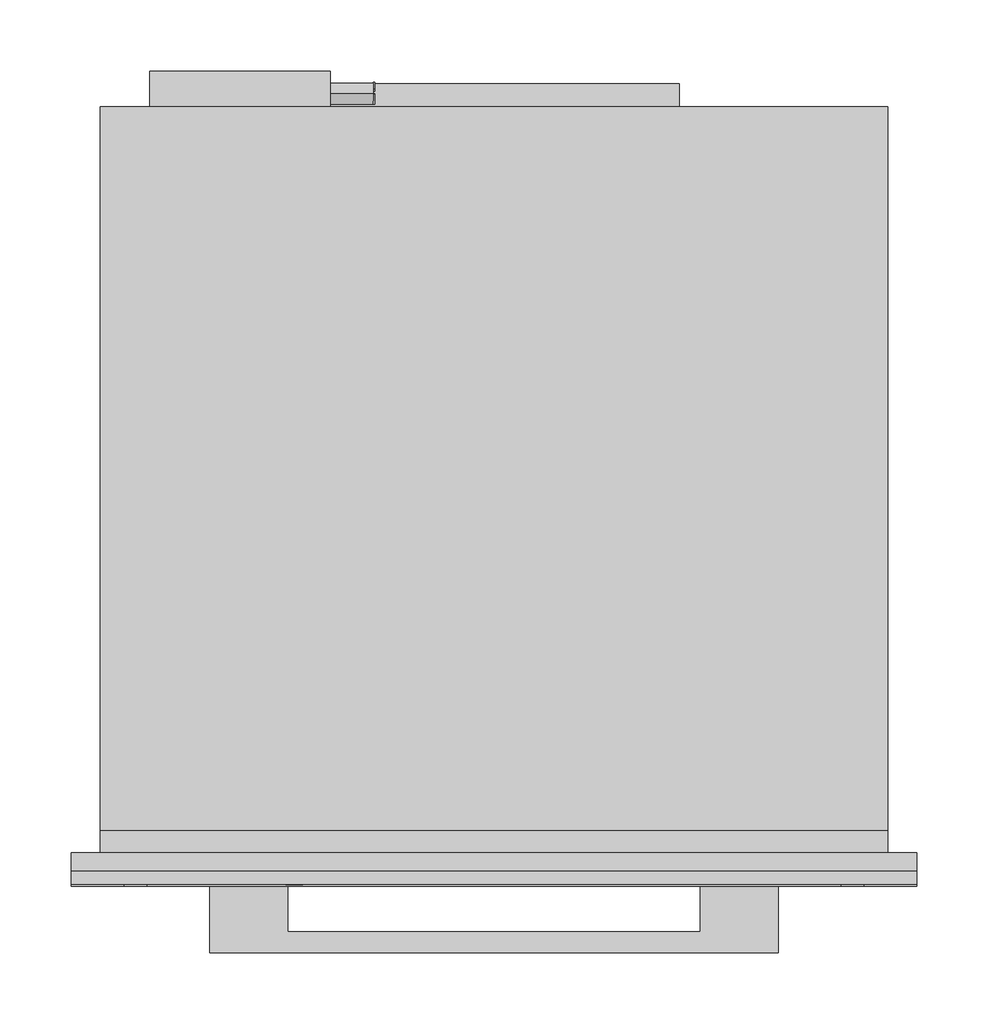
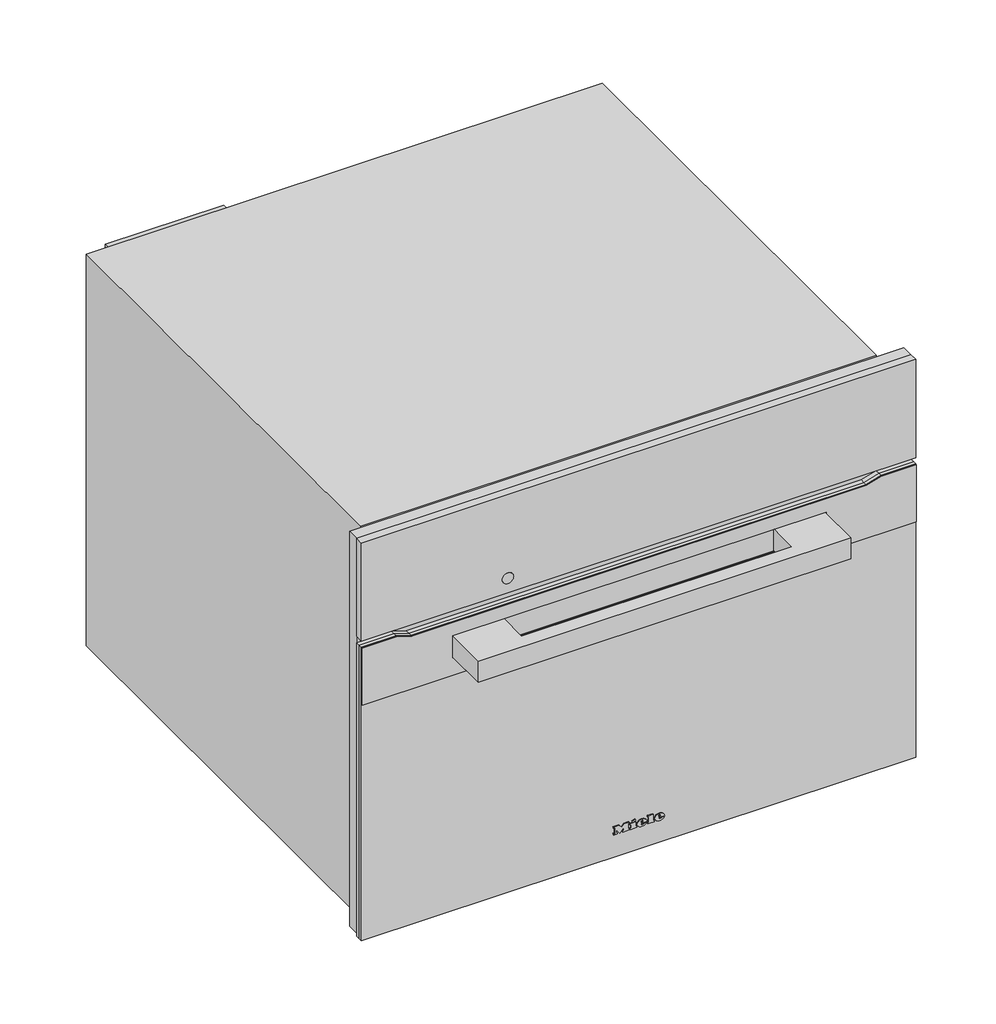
# Not in any storey: 1 proxy.
"""IFC4 building model written with IfcOpenShell, lengths in millimetres."""

import ifcopenshell
import ifcopenshell.guid

model = None  # the IFC model being written
_history = None  # IfcOwnerHistory: only IFC2X3 demands one
_inside = {}  # id of a spatial element -> (the spatial element, [elements in it])
_under = {}  # id of a project, library or spatial element -> (it, [spatial elements below it])
_declared = {}  # id of a project -> (the project, [libraries it declares])
_typed = {}  # id of a type object -> (the type object, [elements of that type])
_made_of = {}  # id of a material, layer set ... -> (it, [elements and type objects made of it])


def new_model(schema):
    """Start an empty IFC model of exactly this schema.

    Asked for "IFC4X3", IfcOpenShell would pick the latest addendum, in which some entities
    have other attributes; the version numbers below select the first issue.
    IFC2X3 requires an IfcOwnerHistory on every rooted entity: one is made here for all.
    """
    global model, _history
    if schema == "IFC4X3":
        model = ifcopenshell.file(schema_version=(4, 3, 0, 0))
    else:
        model = ifcopenshell.file(schema=schema)
    _inside.clear()
    _under.clear()
    _declared.clear()
    _typed.clear()
    _made_of.clear()
    _history = None
    if model.schema == "IFC2X3":
        org = make("IfcOrganization", Name="unknown")
        user = make(
            "IfcPersonAndOrganization",
            ThePerson=make("IfcPerson", FamilyName="unknown"),
            TheOrganization=org,
        )
        app = make(
            "IfcApplication",
            ApplicationDeveloper=org,
            Version="unknown",
            ApplicationFullName="unknown",
            ApplicationIdentifier="unknown",
        )
        _history = make(
            "IfcOwnerHistory",
            OwningUser=user,
            OwningApplication=app,
            ChangeAction="ADDED",
            CreationDate=0,
        )
    return model


def make(cls, **values):
    """One entity of the class cls with the attributes given. An attribute that is None is left unset."""
    return model.create_entity(
        cls, **{name: value for name, value in values.items() if value is not None}
    )


def rooted(cls, **values):
    """An entity with a GlobalId (a new one), such as an element, a storey or a relation."""
    return make(cls, GlobalId=ifcopenshell.guid.new(), OwnerHistory=_history, **values)


def si_unit(unit_type, name, prefix=None):
    """IfcSIUnit, for example si_unit("LENGTHUNIT", "METRE", prefix="MILLI")."""
    return make("IfcSIUnit", UnitType=unit_type, Prefix=prefix, Name=name)


def assignment(units):
    """IfcUnitAssignment: the units of a project."""
    return None if units is None else make("IfcUnitAssignment", Units=units)


def point(xyz):
    """IfcCartesianPoint."""
    return None if xyz is None else make("IfcCartesianPoint", Coordinates=xyz)


def direction(xyz):
    """IfcDirection."""
    return None if xyz is None else make("IfcDirection", DirectionRatios=xyz)


def frame(location, z_axis=None, x_axis=None):
    """IfcAxis2Placement3D, a coordinate frame: its origin and axes. An axis left out is left unset."""
    return make(
        "IfcAxis2Placement3D",
        Location=point(location),
        Axis=direction(z_axis),
        RefDirection=direction(x_axis),
    )


def frame_2d(location, x_axis=None):
    """IfcAxis2Placement2D, a coordinate frame in the plane: its origin and x axis."""
    return make(
        "IfcAxis2Placement2D", Location=point(location), RefDirection=direction(x_axis)
    )


def origin():
    """The frame at (0, 0, 0) with its axes left unset."""
    return frame((0.0, 0.0, 0.0))


def place(relative_to, where):
    """IfcLocalPlacement: puts the frame where relative to a parent placement (None: the world)."""
    return make(
        "IfcLocalPlacement", PlacementRelTo=relative_to, RelativePlacement=where
    )


def context(
    kind, dimensions, precision=None, world=None, true_north=None, identifier=None
):
    """IfcGeometricRepresentationContext, for example the 3D "Model" context."""
    return make(
        "IfcGeometricRepresentationContext",
        ContextIdentifier=identifier,
        ContextType=kind,
        CoordinateSpaceDimension=dimensions,
        Precision=precision,
        WorldCoordinateSystem=world,
        TrueNorth=true_north,
    )


def project(units=None, contexts=None):
    """IfcProject with its units and contexts."""
    return rooted(
        "IfcProject",
        Name="project",
        RepresentationContexts=contexts,
        UnitsInContext=assignment(units),
    )


def spatial(cls, under=None, at=None, **own):
    """A site, building, storey or space (cls), placed at a placement, below another one or the project."""
    s = rooted(cls, ObjectPlacement=at, **own)
    if under is not None:
        _under.setdefault(under.id(), (under, []))[1].append(s)
    return s


def polyline(points):
    """IfcPolyline through the points."""
    return make("IfcPolyline", Points=[point(p) for p in points])


def circle_curve(where, radius):
    """IfcCircle in the frame where."""
    return make("IfcCircle", Position=where, Radius=radius)


def ellipse_curve(where, semi_axis1, semi_axis2):
    """IfcEllipse in the frame where."""
    return make(
        "IfcEllipse", Position=where, SemiAxis1=semi_axis1, SemiAxis2=semi_axis2
    )


def trimmed(basis, trim1, trim2, sense, master):
    """IfcTrimmedCurve: the piece of a basis curve between two trims."""
    return make(
        "IfcTrimmedCurve",
        BasisCurve=basis,
        Trim1=trim1,
        Trim2=trim2,
        SenseAgreement=sense,
        MasterRepresentation=master,
    )


def segment(curve, same_sense, transition):
    """IfcCompositeCurveSegment."""
    return make(
        "IfcCompositeCurveSegment",
        Transition=transition,
        SameSense=same_sense,
        ParentCurve=curve,
    )


def composite_curve(segments, self_intersect=None):
    """IfcCompositeCurve: segments joined end to end."""
    return make("IfcCompositeCurve", Segments=segments, SelfIntersect=self_intersect)


def outline(outer, holes=None, kind="AREA"):
    """IfcArbitraryClosedProfileDef: a profile drawn as a closed curve; with holes, ...WithVoids."""
    if holes is None:
        return make("IfcArbitraryClosedProfileDef", ProfileType=kind, OuterCurve=outer)
    return make(
        "IfcArbitraryProfileDefWithVoids",
        ProfileType=kind,
        OuterCurve=outer,
        InnerCurves=holes,
    )


def extrude(swept, where, along, depth):
    """IfcExtrudedAreaSolid: the profile swept, set in the frame where, extruded along a direction by depth."""
    return make(
        "IfcExtrudedAreaSolid",
        SweptArea=swept,
        Position=where,
        ExtrudedDirection=direction(along),
        Depth=depth,
    )


def faces_of(points, faces, orient=None, outer=None):
    """IfcFace entities. A face is a list of loops; a loop is a list of indices into points, from 0.

    orient and outer hold one flag for each loop. By default every Orientation is true, the
    first loop of a face is its IfcFaceOuterBound and the others are IfcFaceBound.
    """
    made = []
    for i, loops in enumerate(faces):
        bounds = []
        for j, loop in enumerate(loops):
            is_outer = j == 0 if outer is None else outer[i][j]
            bounds.append(
                make(
                    "IfcFaceOuterBound" if is_outer else "IfcFaceBound",
                    Bound=make("IfcPolyLoop", Polygon=[points[k] for k in loop]),
                    Orientation=True if orient is None else orient[i][j],
                )
            )
        made.append(make("IfcFace", Bounds=bounds))
    return made


def faceted_brep(points, faces, orient=None, outer=None, voids=None):
    """IfcFacetedBrep: a solid bounded by flat faces; with voids (closed shells), ...WithVoids."""
    shared = [point(p) for p in points]
    hull = make("IfcClosedShell", CfsFaces=faces_of(shared, faces, orient, outer))
    if voids is None:
        return make("IfcFacetedBrep", Outer=hull)
    return make(
        "IfcFacetedBrepWithVoids",
        Outer=hull,
        Voids=[
            make(cls, CfsFaces=faces_of(shared, fs, o, b)) for cls, fs, o, b in voids
        ],
    )


def shape(context_of_items, identifier, shape_type, items):
    """IfcShapeRepresentation: the items that make up one representation, for example the "Body"."""
    return make(
        "IfcShapeRepresentation",
        ContextOfItems=context_of_items,
        RepresentationIdentifier=identifier,
        RepresentationType=shape_type,
        Items=items,
    )


def source(mapping_origin, context_of_items, identifier, shape_type, items):
    """IfcRepresentationMap: a shape defined once, which mapped items show again and again."""
    return make(
        "IfcRepresentationMap",
        MappingOrigin=mapping_origin,
        MappedRepresentation=shape(context_of_items, identifier, shape_type, items),
    )


def transform(
    local_origin,
    x_axis=None,
    y_axis=None,
    z_axis=None,
    scale=None,
    scale2=None,
    scale3=None,
    uniform=True,
):
    """IfcCartesianTransformationOperator3D, or its non-uniform kind. x_axis, y_axis, z_axis: its Axis1, 2, 3."""
    if uniform:
        return make(
            "IfcCartesianTransformationOperator3D",
            Axis1=direction(x_axis),
            Axis2=direction(y_axis),
            LocalOrigin=point(local_origin),
            Scale=scale,
            Axis3=direction(z_axis),
        )
    return make(
        "IfcCartesianTransformationOperator3DnonUniform",
        Axis1=direction(x_axis),
        Axis2=direction(y_axis),
        LocalOrigin=point(local_origin),
        Scale=scale,
        Axis3=direction(z_axis),
        Scale2=scale2,
        Scale3=scale3,
    )


def mapped(mapping_source, mapping_target):
    """IfcMappedItem: shows the shape of a source again, moved by a transform."""
    return make(
        "IfcMappedItem", MappingSource=mapping_source, MappingTarget=mapping_target
    )


def made_of(thing, what):
    """Note that an element or type object is made of a material, layer set ...; save() writes the relation."""
    if what is not None:
        _made_of.setdefault(what.id(), (what, []))[1].append(thing)
    return thing


def element(
    cls,
    number,
    at=None,
    inside=None,
    cuts=None,
    type_object=None,
    material=None,
    context=None,
    identifier="Body",
    shape_type=None,
    held_by="IfcProductDefinitionShape",
    body=None,
    shapes=None,
    **own,
):
    """One element of the class cls, such as IfcWall. Its Tag is "e" and its number.

    at: its placement. inside: the storey or other place that contains it. cuts: it is an
    opening in that element (IfcRelVoidsElement). A single representation is given by context,
    identifier, shape_type and body (its items); several are given by shapes. held_by: the class
    of the entity that holds the representations. save() writes the other relations.
    """
    e = rooted(cls, Tag="e%d" % number, ObjectPlacement=at, **own)
    if body is not None:
        shapes = [shape(context, identifier, shape_type, body)]
    if shapes is not None:
        e.Representation = make(held_by, Representations=shapes)
    if inside is not None:
        _inside.setdefault(inside.id(), (inside, []))[1].append(e)
    if cuts is not None:
        rooted(
            "IfcRelVoidsElement", RelatingBuildingElement=cuts, RelatedOpeningElement=e
        )
    if type_object is not None:
        _typed.setdefault(type_object.id(), (type_object, []))[1].append(e)
    return made_of(e, material)


def aggregate(whole, parts):
    """IfcRelAggregates: a whole, such as a stair, and the parts it consists of."""
    return rooted("IfcRelAggregates", RelatingObject=whole, RelatedObjects=parts)


def save(model, path):
    """Write the relations noted so far, then the file.

    IfcRelAggregates (storeys below a building ...), IfcRelContainedInSpatialStructure (elements
    in a storey), IfcRelDefinesByType, IfcRelAssociatesMaterial and IfcRelDeclares: one each for
    every whole, place, type object, material and project.
    """
    for whole, parts in _under.values():
        aggregate(whole, parts)
    for where, things in _inside.values():
        rooted(
            "IfcRelContainedInSpatialStructure",
            RelatedElements=things,
            RelatingStructure=where,
        )
    for kind, things in _typed.values():
        rooted("IfcRelDefinesByType", RelatedObjects=things, RelatingType=kind)
    for what, things in _made_of.values():
        rooted("IfcRelAssociatesMaterial", RelatedObjects=things, RelatingMaterial=what)
    for by, libraries in _declared.values():
        rooted("IfcRelDeclares", RelatingContext=by, RelatedDefinitions=libraries)
    model.write(path)


def plane_surface(at):
    """IfcPlane: the flat surface through the origin of the frame at, square to its z axis."""
    return make("IfcPlane", Position=at)


def cylinder_surface(at, radius):
    """IfcCylindricalSurface: all points at the distance radius from the z axis of the frame at."""
    return make("IfcCylindricalSurface", Position=at, Radius=radius)


def revolved_surface(curve, axis_point, axis_direction):
    """IfcSurfaceOfRevolution: the curve turned about the line through axis_point along axis_direction."""
    return make(
        "IfcSurfaceOfRevolution",
        SweptCurve=make("IfcArbitraryOpenProfileDef", ProfileType="CURVE", Curve=curve),
        AxisPosition=make("IfcAxis1Placement", Location=point(axis_point), Axis=direction(axis_direction)),
    )


def extruded_surface(curve, direction_of_extrusion, depth):
    """IfcSurfaceOfLinearExtrusion: the curve pushed along a direction by depth."""
    return make(
        "IfcSurfaceOfLinearExtrusion",
        SweptCurve=make("IfcArbitraryOpenProfileDef", ProfileType="CURVE", Curve=curve),
        ExtrudedDirection=direction(direction_of_extrusion),
        Depth=depth,
    )


def advanced_brep(points, edges, surfaces, faces):
    """IfcAdvancedBrep: a solid bounded by faces that lie on surfaces and meet in shared edges.

    An edge is (start, end): straight between two places in points (the first is 0);
    or (start, end, curve); or (start, end, curve, False) where it runs against its curve.
    A face is (place in surfaces, loops), or (place, loops, False) where it looks against
    its surface's normal. A loop lists edges by number (the first is 1), with a minus sign
    where the edge is run from its end to its start. The first loop is the outer one.
    """
    corners = [point(p) for p in points]
    vertices = [make("IfcVertexPoint", VertexGeometry=c) for c in corners]
    made = []
    for start, end, *more in edges:
        made.append(
            make(
                "IfcEdgeCurve",
                EdgeStart=vertices[start],
                EdgeEnd=vertices[end],
                EdgeGeometry=more[0] if more else make("IfcPolyline", Points=[corners[start], corners[end]]),
                SameSense=more[1] if len(more) > 1 else True,
            )
        )
    hull = []
    for where, loops, *sense in faces:
        bounds = []
        for j, loop in enumerate(loops):
            ring = [make("IfcOrientedEdge", EdgeElement=made[abs(k) - 1], Orientation=k > 0) for k in loop]
            bounds.append(
                make(
                    "IfcFaceOuterBound" if j == 0 else "IfcFaceBound",
                    Bound=make("IfcEdgeLoop", EdgeList=ring),
                    Orientation=True,
                )
            )
        hull.append(make("IfcAdvancedFace", Bounds=bounds, FaceSurface=surfaces[where], SameSense=sense[0] if sense else True))
    return make("IfcAdvancedBrep", Outer=make("IfcClosedShell", CfsFaces=hull))


def specialty_equipment_4e50e9d8(model_context):
    return source(origin(), model_context, "Body", "SolidModel", [
        advanced_brep(
        [(21.28, -23.0, 32.133), (21.28, -23.0, 33.042), (27.301, -23.0, 33.042), (16.825, -23.0, 33.042), (19.3, -23.0, 30.0), (27.148, -23.0, 32.133), (24.43, -23.0, 32.133), (22.288, -23.0, 31.125), (21.28, -23.0, 34.194), (21.28, -23.0, 35.175), (22.819, -23.0, 35.175), (22.819, -23.0, 34.194), (21.28, -22.0, 32.133), (22.288, -22.0, 31.125), (24.43, -22.0, 32.133), (27.148, -22.0, 32.133), (19.3, -22.0, 30.0), (16.825, -22.0, 33.042), (27.301, -22.0, 33.042), (21.28, -22.0, 33.042), (21.28, -22.0, 34.194), (22.819, -22.0, 34.194), (22.819, -22.0, 35.175), (21.28, -22.0, 35.175)],
        [
            (0, 1),
            (1, 2),
            (2, 3, ellipse_curve(frame((22.063, -23.0, 33.042), z_axis=(0.0, -1.0, 0.0), x_axis=(-1.0, 0.0, 0.0)), 5.238, 4.329)),
            (3, 4, circle_curve(frame((20.3080491, -23.0, 33.348), z_axis=(0.0, -1.0, 0.0), x_axis=(0.0, 0.0, -1.0)), 3.4964649)),
            (4, 5, circle_curve(frame((21.9581428, -23.0, 35.724), z_axis=(0.0, -1.0, 0.0), x_axis=(0.0, 0.0, -1.0)), 6.3110933)),
            (5, 6),
            (6, 7, circle_curve(frame((22.7279412, -23.0, 32.97), z_axis=(0.0, 1.0, 0.0), x_axis=(0.0, 0.0, -1.0)), 1.896727)),
            (7, 0, circle_curve(frame((22.288, -23.0, 32.133), z_axis=(0.0, 1.0, 0.0), x_axis=(0.0, 0.0, -1.0)), 1.008)),
            (8, 9),
            (9, 10, circle_curve(frame((22.0495, -23.0, 35.175), z_axis=(0.0, 1.0, 0.0), x_axis=(0.0, 0.0, -1.0)), 0.7695)),
            (10, 11),
            (11, 8),
            (12, 13, circle_curve(frame((22.288, -22.0, 32.133), z_axis=(0.0, -1.0, 0.0), x_axis=(0.0, 0.0, -1.0)), 1.008)),
            (13, 14, circle_curve(frame((22.7279412, -22.0, 32.97), z_axis=(0.0, -1.0, 0.0), x_axis=(0.0, 0.0, -1.0)), 1.896727)),
            (14, 15),
            (15, 16, circle_curve(frame((21.9581428, -22.0, 35.724), z_axis=(0.0, 1.0, 0.0), x_axis=(0.0, 0.0, -1.0)), 6.3110933)),
            (16, 17, circle_curve(frame((20.3080491, -22.0, 33.348), z_axis=(0.0, 1.0, 0.0), x_axis=(0.0, 0.0, -1.0)), 3.4964649)),
            (17, 18, ellipse_curve(frame((22.063, -22.0, 33.042), z_axis=(0.0, 1.0, 0.0), x_axis=(-1.0, 0.0, 0.0)), 5.238, 4.329)),
            (18, 19),
            (19, 12),
            (20, 21),
            (21, 22),
            (22, 23, circle_curve(frame((22.0495, -22.0, 35.175), z_axis=(0.0, -1.0, 0.0), x_axis=(0.0, 0.0, -1.0)), 0.7695)),
            (23, 20),
            (0, 12),
            (19, 1),
            (18, 2),
            (5, 15),
            (14, 6),
            (17, 3),
            (13, 7),
            (16, 4),
            (8, 20),
            (23, 9),
            (22, 10),
            (21, 11),
        ],
        [
            plane_surface(frame((21.28, -23.0, 33.042), z_axis=(0.0, -1.0, 0.0), x_axis=(0.0, 0.0, 1.0))),
            plane_surface(frame((21.28, -22.0, 33.042), z_axis=(0.0, 1.0, 0.0), x_axis=(0.0, 0.0, -1.0))),
            plane_surface(frame((21.28, -23.0, 32.133), z_axis=(1.0, 0.0, 0.0), x_axis=(0.0, 1.0, 0.0))),
            plane_surface(frame((21.28, -23.0, 33.042), z_axis=(0.0, 0.0, -1.0), x_axis=(0.0, 1.0, 0.0))),
            plane_surface(frame((27.148, -23.0, 32.133), z_axis=(0.0, 0.0, 1.0), x_axis=(0.0, 1.0, 0.0))),
            extruded_surface(trimmed(ellipse_curve(frame((22.063, -21.0, 33.042), z_axis=(0.0, -1.0, 0.0), x_axis=(-1.0, 0.0, 0.0)), 5.238, 4.329), [point((27.301, -21.0, 33.042))], [point((16.825, -21.0, 33.042))], True, "CARTESIAN"), (0.0, -1.0, 0.0), 1.0),
            revolved_surface(polyline([(22.7279412, -22.0, 31.073273), (22.7279412, -23.0, 31.073273)]), (22.7279412, -22.0, 32.97), (0.0, 1.0, 0.0)),
            revolved_surface(polyline([(22.288, -22.0, 31.125000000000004), (22.288, -23.0, 31.125000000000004)]), (22.288, -22.0, 32.133), (0.0, 1.0, 0.0)),
            cylinder_surface(frame((20.3080491, -22.0, 33.348), z_axis=(0.0, -1.0, 0.0), x_axis=(0.0, 0.0, -1.0)), 3.4964649),
            cylinder_surface(frame((21.9581428, -22.0, 35.724), z_axis=(0.0, -1.0, 0.0), x_axis=(0.0, 0.0, -1.0)), 6.3110933),
            plane_surface(frame((21.28, -23.0, 34.194), z_axis=(1.0, 0.0, 0.0), x_axis=(0.0, 1.0, 0.0))),
            revolved_surface(polyline([(22.0495, -22.0, 34.405499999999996), (22.0495, -23.0, 34.405499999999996)]), (22.0495, -22.0, 35.175), (0.0, 1.0, 0.0)),
            plane_surface(frame((22.819, -23.0, 35.175), z_axis=(-1.0, 0.0, 0.0), x_axis=(0.0, 1.0, 0.0))),
            plane_surface(frame((22.819, -23.0, 34.194), z_axis=(0.0, 0.0, 1.0), x_axis=(0.0, 1.0, 0.0))),
        ],
        [
            (0, [[1, 2, 3, 4, 5, 6, 7, 8], [9, 10, 11, 12]]),
            (1, [[13, 14, 15, 16, 17, 18, 19, 20], [21, 22, 23, 24]]),
            (2, [[-1, 25, -20, 26]]),
            (3, [[-2, -26, -19, 27]]),
            (4, [[-6, 28, -15, 29]]),
            (5, [[-3, -27, -18, 30]]),
            (6, [[-7, -29, -14, 31]]),
            (7, [[-8, -31, -13, -25]]),
            (8, [[-4, -30, -17, 32]]),
            (9, [[-5, -32, -16, -28]]),
            (10, [[-9, 33, -24, 34]]),
            (11, [[-10, -34, -23, 35]]),
            (12, [[-11, -35, -22, 36]]),
            (13, [[-12, -36, -21, -33]]),
        ],
    ),
        advanced_brep(
        [(2.497, -23.0, 32.133), (2.497, -23.0, 33.042), (8.518, -23.0, 33.042), (-1.958, -23.0, 33.042), (0.517, -23.0, 30.0), (8.365, -23.0, 32.133), (5.647, -23.0, 32.133), (3.505, -23.0, 31.125), (2.497, -23.0, 34.194), (2.497, -23.0, 35.175), (4.036, -23.0, 35.175), (4.036, -23.0, 34.194), (2.497, -22.0, 32.133), (3.505, -22.0, 31.125), (5.647, -22.0, 32.133), (8.365, -22.0, 32.133), (0.517, -22.0, 30.0), (-1.958, -22.0, 33.042), (8.518, -22.0, 33.042), (2.497, -22.0, 33.042), (2.497, -22.0, 34.194), (4.036, -22.0, 34.194), (4.036, -22.0, 35.175), (2.497, -22.0, 35.175)],
        [
            (0, 1),
            (1, 2),
            (2, 3, ellipse_curve(frame((3.28, -23.0, 33.042), z_axis=(0.0, -1.0, 0.0), x_axis=(-1.0, 0.0, 0.0)), 5.238, 4.329)),
            (3, 4, circle_curve(frame((1.5250491, -23.0, 33.348), z_axis=(0.0, -1.0, 0.0), x_axis=(0.0, 0.0, -1.0)), 3.4964649)),
            (4, 5, circle_curve(frame((3.1751428, -23.0, 35.724), z_axis=(0.0, -1.0, 0.0), x_axis=(0.0, 0.0, -1.0)), 6.3110933)),
            (5, 6),
            (6, 7, circle_curve(frame((3.9449412, -23.0, 32.97), z_axis=(0.0, 1.0, 0.0), x_axis=(0.0, 0.0, -1.0)), 1.896727)),
            (7, 0, circle_curve(frame((3.505, -23.0, 32.133), z_axis=(0.0, 1.0, 0.0), x_axis=(0.0, 0.0, -1.0)), 1.008)),
            (8, 9),
            (9, 10, circle_curve(frame((3.2665, -23.0, 35.175), z_axis=(0.0, 1.0, 0.0), x_axis=(0.0, 0.0, -1.0)), 0.7695)),
            (10, 11),
            (11, 8),
            (12, 13, circle_curve(frame((3.505, -22.0, 32.133), z_axis=(0.0, -1.0, 0.0), x_axis=(0.0, 0.0, -1.0)), 1.008)),
            (13, 14, circle_curve(frame((3.9449412, -22.0, 32.97), z_axis=(0.0, -1.0, 0.0), x_axis=(0.0, 0.0, -1.0)), 1.896727)),
            (14, 15),
            (15, 16, circle_curve(frame((3.1751428, -22.0, 35.724), z_axis=(0.0, 1.0, 0.0), x_axis=(0.0, 0.0, -1.0)), 6.3110933)),
            (16, 17, circle_curve(frame((1.5250491, -22.0, 33.348), z_axis=(0.0, 1.0, 0.0), x_axis=(0.0, 0.0, -1.0)), 3.4964649)),
            (17, 18, ellipse_curve(frame((3.28, -22.0, 33.042), z_axis=(0.0, 1.0, 0.0), x_axis=(-1.0, 0.0, 0.0)), 5.238, 4.329)),
            (18, 19),
            (19, 12),
            (20, 21),
            (21, 22),
            (22, 23, circle_curve(frame((3.2665, -22.0, 35.175), z_axis=(0.0, -1.0, 0.0), x_axis=(0.0, 0.0, -1.0)), 0.7695)),
            (23, 20),
            (0, 12),
            (19, 1),
            (18, 2),
            (5, 15),
            (14, 6),
            (17, 3),
            (13, 7),
            (16, 4),
            (8, 20),
            (23, 9),
            (22, 10),
            (21, 11),
        ],
        [
            plane_surface(frame((2.497, -23.0, 33.042), z_axis=(0.0, -1.0, 0.0), x_axis=(0.0, 0.0, 1.0))),
            plane_surface(frame((2.497, -22.0, 33.042), z_axis=(0.0, 1.0, 0.0), x_axis=(0.0, 0.0, -1.0))),
            plane_surface(frame((2.497, -23.0, 32.133), z_axis=(1.0, 0.0, 0.0), x_axis=(0.0, 1.0, 0.0))),
            plane_surface(frame((2.497, -23.0, 33.042), z_axis=(0.0, 0.0, -1.0), x_axis=(0.0, 1.0, 0.0))),
            plane_surface(frame((8.365, -23.0, 32.133), z_axis=(0.0, 0.0, 1.0), x_axis=(0.0, 1.0, 0.0))),
            extruded_surface(trimmed(ellipse_curve(frame((3.28, -21.0, 33.042), z_axis=(0.0, -1.0, 0.0), x_axis=(-1.0, 0.0, 0.0)), 5.238, 4.329), [point((8.518, -21.0, 33.042))], [point((-1.958, -21.0, 33.042))], True, "CARTESIAN"), (0.0, -1.0, 0.0), 1.0),
            revolved_surface(polyline([(3.9449412, -22.0, 31.073273), (3.9449412, -23.0, 31.073273)]), (3.9449412, -22.0, 32.97), (0.0, 1.0, 0.0)),
            revolved_surface(polyline([(3.505, -22.0, 31.125000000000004), (3.505, -23.0, 31.125000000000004)]), (3.505, -22.0, 32.133), (0.0, 1.0, 0.0)),
            cylinder_surface(frame((1.5250491, -22.0, 33.348), z_axis=(0.0, -1.0, 0.0), x_axis=(0.0, 0.0, -1.0)), 3.4964649),
            cylinder_surface(frame((3.1751428, -22.0, 35.724), z_axis=(0.0, -1.0, 0.0), x_axis=(0.0, 0.0, -1.0)), 6.3110933),
            plane_surface(frame((2.497, -23.0, 34.194), z_axis=(1.0, 0.0, 0.0), x_axis=(0.0, 1.0, 0.0))),
            revolved_surface(polyline([(3.2665, -22.0, 34.405499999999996), (3.2665, -23.0, 34.405499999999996)]), (3.2665, -22.0, 35.175), (0.0, 1.0, 0.0)),
            plane_surface(frame((4.036, -23.0, 35.175), z_axis=(-1.0, 0.0, 0.0), x_axis=(0.0, 1.0, 0.0))),
            plane_surface(frame((4.036, -23.0, 34.194), z_axis=(0.0, 0.0, 1.0), x_axis=(0.0, 1.0, 0.0))),
        ],
        [
            (0, [[1, 2, 3, 4, 5, 6, 7, 8], [9, 10, 11, 12]]),
            (1, [[13, 14, 15, 16, 17, 18, 19, 20], [21, 22, 23, 24]]),
            (2, [[-1, 25, -20, 26]]),
            (3, [[-2, -26, -19, 27]]),
            (4, [[-6, 28, -15, 29]]),
            (5, [[-3, -27, -18, 30]]),
            (6, [[-7, -29, -14, 31]]),
            (7, [[-8, -31, -13, -25]]),
            (8, [[-4, -30, -17, 32]]),
            (9, [[-5, -32, -16, -28]]),
            (10, [[-9, 33, -24, 34]]),
            (11, [[-10, -34, -23, 35]]),
            (12, [[-11, -35, -22, 36]]),
            (13, [[-12, -36, -21, -33]]),
        ],
    ),
        extrude(outline(polyline([(38.469, -7.34), (37.011, -6.656), (38.433, -3.605), (39.891, -4.28), (38.469, -7.34)])), frame((0.0, -23.0, 0.0), z_axis=(0.0, 1.0, 0.0), x_axis=(0.0, 0.0, 1.0)), (0.0, 0.0, 1.0), 1.0),
        extrude(outline(polyline([(36.813, -9.563), (35.202, -9.563), (35.202, -8.492), (31.512, -8.492), (31.512, -9.563), (30.0, -9.563), (30.0, -2.462), (31.512, -2.462), (31.512, -3.506), (36.813, -3.506), (36.813, -9.563)])), frame((0.0, -23.0, 0.0), z_axis=(0.0, 1.0, 0.0), x_axis=(0.0, 0.0, 1.0)), (0.0, 0.0, 1.0), 1.0),
        extrude(outline(polyline([(37.533, 9.022), (37.533, 10.102), (31.512, 10.102), (31.512, 9.022), (30.0, 9.022), (30.0, 16.321), (31.512, 16.321), (31.512, 15.214), (39.0, 15.214), (39.0, 9.022), (37.533, 9.022)])), frame((0.0, -23.0, 0.0), z_axis=(0.0, 1.0, 0.0), x_axis=(0.0, 0.0, 1.0)), (0.0, 0.0, 1.0), 1.0),
        extrude(outline(polyline([(37.533, -27.5), (37.533, -26.411), (31.512, -26.411), (31.512, -27.5), (30.0, -27.5), (30.0, -23.54), (31.512, -23.54), (31.512, -24.62), (35.3341247, -24.62), (30.0, -20.597), (35.4402223, -16.556), (31.512, -16.556), (31.512, -17.663), (30.0, -17.663), (30.0, -10.481), (31.512, -10.481), (31.512, -11.624), (37.533, -11.624), (37.533, -10.481), (39.0, -10.481), (39.0, -15.962), (35.625, -18.59), (39.0, -21.227), (39.0, -27.5), (37.533, -27.5)])), frame((0.0, -23.0, 0.0), z_axis=(0.0, 1.0, 0.0), x_axis=(0.0, 0.0, 1.0)), (0.0, 0.0, 1.0), 1.0),
        extrude(outline(polyline([(-200.0, -70.3), (-200.0, -22.0), (-145.0, -22.0), (-145.0, -55.3), (145.0, -55.3), (145.0, -22.0), (200.0, -22.0), (200.0, -70.3), (-200.0, -70.3)])), frame((0.0, 0.0, 292.5), z_axis=(0.0, 0.0, 1.0), x_axis=(1.0, 0.0, 0.0)), (0.0, 0.0, 1.0), 24.0),
        extrude(outline(polyline([(337.0, -297.5), (4.0, -297.5), (4.0, 297.5), (337.0, 297.5), (337.0, 260.3542631), (332.0, 244.0), (332.0, -244.0), (337.0, -260.3542631), (337.0, -297.5)])), frame((0.0, -22.0, 0.0), z_axis=(0.0, 1.0, 0.0), x_axis=(0.0, 0.0, 1.0)), (0.0, 0.0, 1.0), 4.0),
        extrude(outline(polyline([(337.0, -297.5), (272.0, -297.5), (272.0, 297.5), (337.0, 297.5), (337.0, 260.3542631), (332.0, 244.0), (332.0, -244.0), (337.0, -260.3542631), (337.0, -297.5)]), holes=[polyline([(317.0, -200.5), (317.0, 200.5), (292.0, 200.5), (292.0, -200.5), (317.0, -200.5)])]), frame((0.0, -23.3, 0.0), z_axis=(0.0, 1.0, 0.0), x_axis=(0.0, 0.0, 1.0)), (0.0, 0.0, 1.0), 1.3),
        extrude(outline(polyline([(337.0, -297.5), (4.0, -297.5), (4.0, 297.5), (337.0, 297.5), (337.0, 260.3542631), (332.0, 244.0), (332.0, -244.0), (337.0, -260.3542631), (337.0, -297.5)])), frame((0.0, -18.0, 0.0), z_axis=(0.0, 1.0, 0.0), x_axis=(0.0, 0.0, 1.0)), (0.0, 0.0, 1.0), 5.0),
        extrude(outline(polyline([(297.5, -22.0), (-297.5, -22.0), (-297.5, -13.0), (297.5, -13.0), (297.5, -22.0)])), frame((0.0, 0.0, 344.0), z_axis=(0.0, 0.0, 1.0), x_axis=(1.0, 0.0, 0.0)), (0.0, 0.0, 1.0), 111.5),
        extrude(outline(composite_curve([segment(trimmed(circle_curve(frame_2d((361.0, -140.5745637)), 6.0), [point((361.0, -146.5745637))], [point((361.0, -134.5745637))], False, "CARTESIAN"), True, "CONTINUOUS"), segment(trimmed(circle_curve(frame_2d((361.0, -140.5745637)), 6.0), [point((361.0, -134.5745637))], [point((361.0, -146.5745637))], False, "CARTESIAN"), True, "CONTINUOUS")], self_intersect=False)), frame((0.0, -22.5, 0.0), z_axis=(0.0, 1.0, 0.0), x_axis=(0.0, 0.0, 1.0)), (0.0, 0.0, 1.0), 1.0),
        extrude(outline(polyline([(526.6176075, 348.0006785), (526.6176075, 358.0471554), (533.8434473, 358.0471554), (533.8434473, 356.7922128), (527.8818689, 356.7922128), (527.8818689, 353.8127064), (533.5308134, 353.8127064), (533.5308134, 352.551833), (527.8785103, 352.551833), (527.8785103, 349.2552921), (534.0086943, 349.2552921), (534.0086943, 348.0006785), (526.6176075, 348.0006785)])), frame((-85.0, 0.0, 0.0), z_axis=(1.0, 0.0, 0.0), x_axis=(0.0, 1.0, 0.0)), (0.0, 0.0, 1.0), 1.0),
        extrude(outline(polyline([(535.8834538, 348.0032098), (535.8834538, 358.0486697), (537.1384639, 358.0486697), (537.1384639, 349.2559157), (542.1633067, 349.2559157), (542.1633067, 348.0032098), (535.8834538, 348.0032098)])), frame((-85.0, 0.0, 0.0), z_axis=(1.0, 0.0, 0.0), x_axis=(0.0, 1.0, 0.0)), (0.0, 0.0, 1.0), 1.0),
        extrude(outline(composite_curve([segment(trimmed(circle_curve(frame_2d((534.0, 353.0)), 7.5), [point((534.0, 345.5))], [point((534.0, 360.5))], False, "CARTESIAN"), True, "CONTINUOUS"), segment(trimmed(circle_curve(frame_2d((534.0, 353.0)), 7.5), [point((534.0, 360.5))], [point((534.0, 345.5))], False, "CARTESIAN"), True, "CONTINUOUS")], self_intersect=False)), frame((-115.0, 0.0, 0.0), z_axis=(1.0, 0.0, 0.0), x_axis=(0.0, 1.0, 0.0)), (0.0, 0.0, 1.0), 30.0),
        extrude(outline(polyline([(-115.0, 525.0), (-242.0, 525.0), (-242.0, 550.0), (-115.0, 550.0), (-115.0, 525.0)])), frame((0.0, 0.0, 325.0), z_axis=(0.0, 0.0, 1.0), x_axis=(1.0, 0.0, 0.0)), (0.0, 0.0, 1.0), 103.0),
        extrude(outline(polyline([(130.5, 525.0), (-130.5, 525.0), (-130.5, 541.0), (130.5, 541.0), (130.5, 525.0)])), frame((0.0, 0.0, 36.0), z_axis=(0.0, 0.0, 1.0), x_axis=(1.0, 0.0, 0.0)), (0.0, 0.0, 1.0), 261.0),
        faceted_brep([(272.5, 17.0, 344.0), (-272.5, 17.0, 344.0), (-272.5, 17.0, 7.0), (272.5, 17.0, 7.0), (-230.0, 17.0, 295.0), (230.0, 17.0, 295.0), (230.0, 17.0, 60.0), (-230.0, 17.0, 60.0), (272.5, 0.0, 344.0), (-272.5, 0.0, 344.0), (-272.5, 0.0, 7.0), (272.5, 0.0, 7.0), (277.0, 0.0, 0.0), (277.0, 525.0, 0.0), (277.0, 525.0, 444.5), (277.0, 16.0, 444.5), (277.0, 16.0, 439.5), (277.0, 0.0, 439.5), (-277.0, 16.0, 444.5), (-277.0, 525.0, 444.5), (-277.0, 525.0, 0.0), (-277.0, 0.0, 0.0), (-277.0, 0.0, 439.5), (-277.0, 16.0, 439.5), (230.0, 412.0, 295.0), (-230.0, 412.0, 295.0), (-230.0, 412.0, 60.0), (230.0, 412.0, 60.0)], [[[0, 1, 2, 3], [4, 5, 6, 7]], [[1, 0, 8, 9]], [[2, 1, 9, 10]], [[0, 3, 11, 8]], [[12, 13, 14, 15, 16, 17]], [[18, 19, 20, 21, 22, 23]], [[13, 12, 21, 20]], [[14, 13, 20, 19]], [[15, 14, 19, 18]], [[21, 12, 17, 22], [9, 8, 11, 10]], [[24, 25, 26, 27]], [[25, 24, 5, 4]], [[26, 25, 4, 7]], [[27, 26, 7, 6]], [[24, 27, 6, 5]], [[3, 2, 10, 11]], [[16, 23, 22, 17]], [[23, 16, 15, 18]]]),
        extrude(outline(polyline([(7.0, 297.5), (455.5, 297.5), (455.5, -297.5), (7.0, -297.5), (7.0, -272.5), (344.0, -272.5), (344.0, 272.5), (7.0, 272.5), (7.0, 297.5)])), frame((0.0, -13.0, 0.0), z_axis=(0.0, 1.0, 0.0), x_axis=(0.0, 0.0, 1.0)), (0.0, 0.0, 1.0), 13.0),
    ])


model = new_model("IFC4")

# Units and contexts
model_context = context("Model", 3, world=origin())
ifc_project = project(units=[si_unit("LENGTHUNIT", "METRE", prefix="MILLI")], contexts=[model_context])

# Site, building
site = spatial("IfcSite", under=ifc_project)
building = spatial("IfcBuilding", under=site)

# Proxy
placement = place(None, origin())
specialty_equipment_shape = specialty_equipment_4e50e9d8(model_context)
element("IfcBuildingElementProxy", 1, Name="11110990_CH_H7240BM_EDST-CLST : 22724046_CH_11110990_H7240BM_EDST-CLST", ObjectType="11110990_CH_H7240BM_EDST-CLST : 22724046_CH_11110990_H7240BM_EDST-CLST", at=placement, inside=building, context=model_context, shape_type="MappedRepresentation", body=[
    mapped(specialty_equipment_shape, transform((0.0, 0.0, 0.0), x_axis=(1.0, 0.0, 0.0), y_axis=(0.0, 1.0, 0.0), z_axis=(0.0, 0.0, 1.0))),
])

save(model, "model.ifc")
